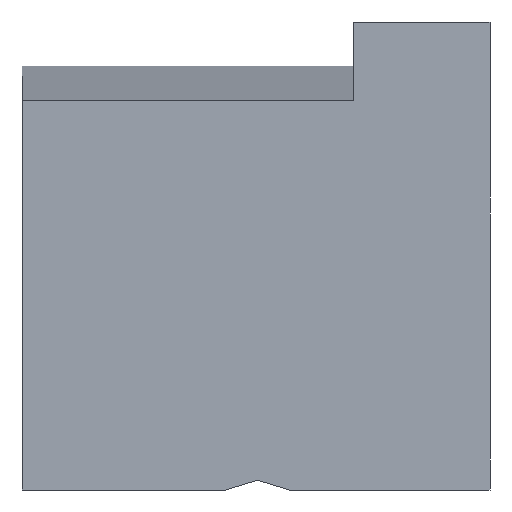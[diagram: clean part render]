
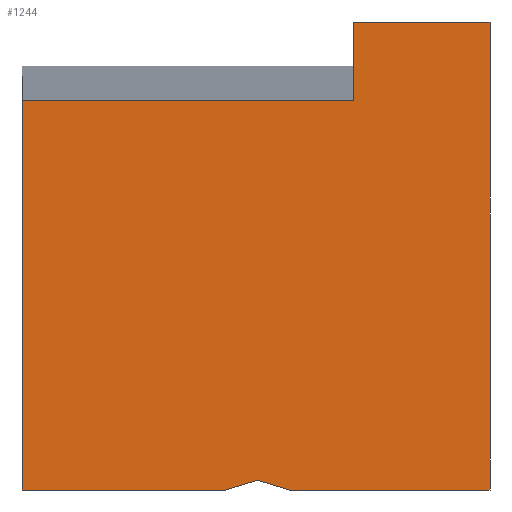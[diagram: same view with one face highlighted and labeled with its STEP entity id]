
A CAD part, front view. The second image highlights one B-rep face of the part: STEP entity #1244.
In plain terms, the highlighted planar face has unit normal (0, -1, 0).
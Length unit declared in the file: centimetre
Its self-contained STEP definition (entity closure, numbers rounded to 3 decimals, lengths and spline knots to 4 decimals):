
#2 = DIRECTION ( 'NONE',  ( 1., 0., 0. ) ) ;
#5 = VERTEX_POINT ( 'NONE', #408 ) ;
#31 = EDGE_CURVE ( 'NONE', #75, #5, #1177, .T. ) ;
#32 = FACE_OUTER_BOUND ( 'NONE', #1044, .T. ) ;
#40 = CARTESIAN_POINT ( 'NONE',  ( 0., 0., 831.8285 ) ) ;
#71 = CARTESIAN_POINT ( 'NONE',  ( 0., 0., 0. ) ) ;
#75 = VERTEX_POINT ( 'NONE', #602 ) ;
#77 = LINE ( 'NONE', #748, #540 ) ;
#85 = DIRECTION ( 'NONE',  ( 0.956, 0., -0.292 ) ) ;
#98 = EDGE_CURVE ( 'NONE', #745, #847, #100, .T. ) ;
#100 = LINE ( 'NONE', #568, #840 ) ;
#106 = DIRECTION ( 'NONE',  ( 0.956, 0., 0.292 ) ) ;
#117 = LINE ( 'NONE', #1165, #1201 ) ;
#155 = ORIENTED_EDGE ( 'NONE', *, *, #674, .F. ) ;
#173 = EDGE_CURVE ( 'NONE', #429, #292, #1160, .T. ) ;
#188 = VERTEX_POINT ( 'NONE', #816 ) ;
#207 = VECTOR ( 'NONE', #2, 100. ) ;
#272 = ORIENTED_EDGE ( 'NONE', *, *, #956, .F. ) ;
#287 = CARTESIAN_POINT ( 'NONE',  ( 708.7448, 0., 831.8285 ) ) ;
#292 = VERTEX_POINT ( 'NONE', #40 ) ;
#300 = CARTESIAN_POINT ( 'NONE',  ( 434.8125, 0., 0. ) ) ;
#341 = EDGE_CURVE ( 'NONE', #770, #1111, #896, .T. ) ;
#401 = LINE ( 'NONE', #865, #207 ) ;
#404 = DIRECTION ( 'NONE',  ( 0., 1., 0. ) ) ;
#408 = CARTESIAN_POINT ( 'NONE',  ( 1000., 0., 0. ) ) ;
#413 = EDGE_CURVE ( 'NONE', #292, #770, #852, .T. ) ;
#414 = CARTESIAN_POINT ( 'NONE',  ( 0., 0., 0. ) ) ;
#417 = CARTESIAN_POINT ( 'NONE',  ( 1000., 0., 1000. ) ) ;
#429 = VERTEX_POINT ( 'NONE', #744 ) ;
#440 = ORIENTED_EDGE ( 'NONE', *, *, #413, .T. ) ;
#453 = DIRECTION ( 'NONE',  ( 1., 0., 0. ) ) ;
#483 = DIRECTION ( 'NONE',  ( 1., 0., 0. ) ) ;
#502 = CARTESIAN_POINT ( 'NONE',  ( 0., 0., 1000. ) ) ;
#514 = VECTOR ( 'NONE', #908, 100. ) ;
#524 = VECTOR ( 'NONE', #453, 100. ) ;
#527 = CARTESIAN_POINT ( 'NONE',  ( 571.9936, 0., 0. ) ) ;
#540 = VECTOR ( 'NONE', #844, 100. ) ;
#546 = DIRECTION ( 'NONE',  ( -1., 0., 0. ) ) ;
#560 = CARTESIAN_POINT ( 'NONE',  ( 0., 0., 1000. ) ) ;
#568 = CARTESIAN_POINT ( 'NONE',  ( 503.4031, 0., 20.9727 ) ) ;
#585 = PLANE ( 'NONE',  #730 ) ;
#599 = DIRECTION ( 'NONE',  ( 0., 0., 1. ) ) ;
#602 = CARTESIAN_POINT ( 'NONE',  ( 1000., 0., 1000. ) ) ;
#619 = EDGE_CURVE ( 'NONE', #1111, #745, #117, .T. ) ;
#674 = EDGE_CURVE ( 'NONE', #188, #75, #401, .T. ) ;
#730 = AXIS2_PLACEMENT_3D ( 'NONE', #502, #404, #599 ) ;
#744 = CARTESIAN_POINT ( 'NONE',  ( 708.7448, 0., 831.8285 ) ) ;
#745 = VERTEX_POINT ( 'NONE', #1082 ) ;
#748 = CARTESIAN_POINT ( 'NONE',  ( 708.7448, 0., 831.8285 ) ) ;
#758 = DIRECTION ( 'NONE',  ( 0., 0., -1. ) ) ;
#764 = VECTOR ( 'NONE', #758, 100. ) ;
#770 = VERTEX_POINT ( 'NONE', #1014 ) ;
#806 = VECTOR ( 'NONE', #483, 100. ) ;
#809 = ORIENTED_EDGE ( 'NONE', *, *, #173, .T. ) ;
#816 = CARTESIAN_POINT ( 'NONE',  ( 708.7448, 0., 1000. ) ) ;
#824 = ORIENTED_EDGE ( 'NONE', *, *, #31, .F. ) ;
#840 = VECTOR ( 'NONE', #85, 100. ) ;
#844 = DIRECTION ( 'NONE',  ( 0., 0., 1. ) ) ;
#847 = VERTEX_POINT ( 'NONE', #527 ) ;
#852 = LINE ( 'NONE', #560, #764 ) ;
#865 = CARTESIAN_POINT ( 'NONE',  ( 0., 0., 1000. ) ) ;
#896 = LINE ( 'NONE', #414, #806 ) ;
#908 = DIRECTION ( 'NONE',  ( 0., 0., -1. ) ) ;
#936 = ORIENTED_EDGE ( 'NONE', *, *, #1047, .T. ) ;
#940 = LINE ( 'NONE', #71, #524 ) ;
#956 = EDGE_CURVE ( 'NONE', #429, #188, #77, .T. ) ;
#1014 = CARTESIAN_POINT ( 'NONE',  ( 0., 0., 0. ) ) ;
#1044 = EDGE_LOOP ( 'NONE', ( #272, #809, #440, #1077, #1162, #1197, #936, #824, #155 ) ) ;
#1047 = EDGE_CURVE ( 'NONE', #847, #5, #940, .T. ) ;
#1077 = ORIENTED_EDGE ( 'NONE', *, *, #341, .T. ) ;
#1082 = CARTESIAN_POINT ( 'NONE',  ( 503.4031, 0., 20.9727 ) ) ;
#1111 = VERTEX_POINT ( 'NONE', #300 ) ;
#1160 = LINE ( 'NONE', #287, #1187 ) ;
#1162 = ORIENTED_EDGE ( 'NONE', *, *, #619, .T. ) ;
#1165 = CARTESIAN_POINT ( 'NONE',  ( 434.8125, 0., 0. ) ) ;
#1177 = LINE ( 'NONE', #417, #514 ) ;
#1187 = VECTOR ( 'NONE', #546, 100. ) ;
#1197 = ORIENTED_EDGE ( 'NONE', *, *, #98, .T. ) ;
#1201 = VECTOR ( 'NONE', #106, 100. ) ;
#1244 = ADVANCED_FACE ( 'NONE', ( #32 ), #585, .F. ) ;
